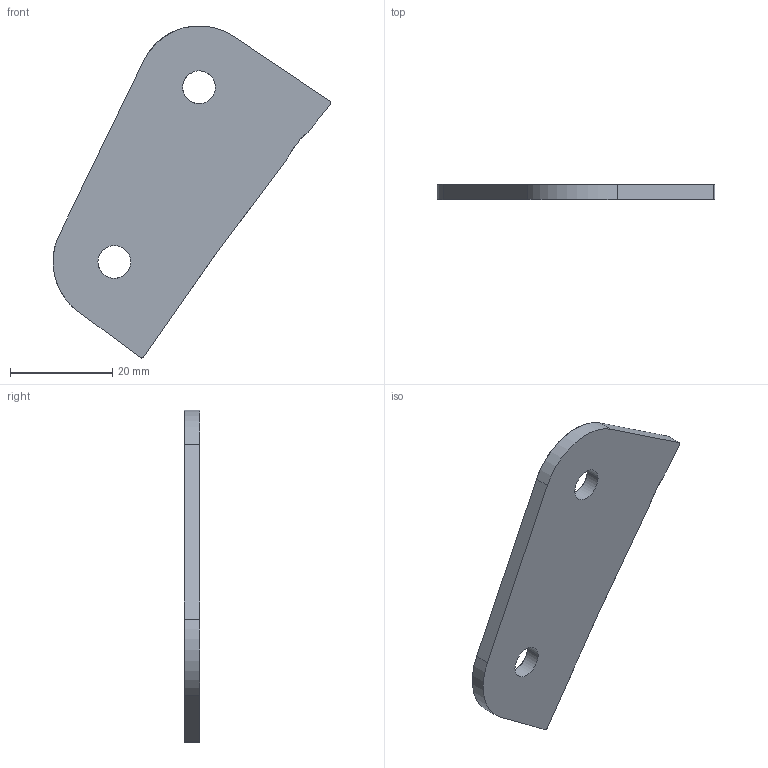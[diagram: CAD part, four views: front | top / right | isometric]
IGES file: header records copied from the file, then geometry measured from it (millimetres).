
Start section: START RECORD GO HERE.
Global section: file name: 20M_AE_ 21004 (chape exterieure aile arriere).igs; native system: IBM CATIA IGES - CATIA Version 5 Release 19 ; preprocessor: CATIA Version 5 Release 19 ; author: mik75; organization: LAPTOP-SUH344G9; date: 20200115.181758; units: millimetre
Bounding box: 54.29 x 3 x 64.86 mm (x, y, z)
Surface area: 4192 mm2 (no closed solid volume)
Topology: 0 solids, 0 shells, 16 faces, 84 edges, 84 vertices
Faces by surface type: revolution 8, plane 5, extrusion 3
